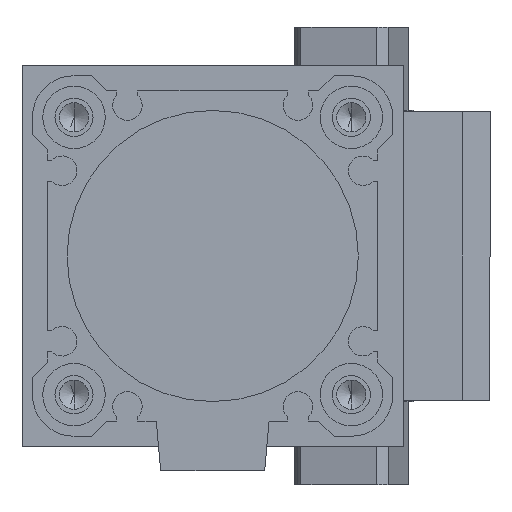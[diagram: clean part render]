
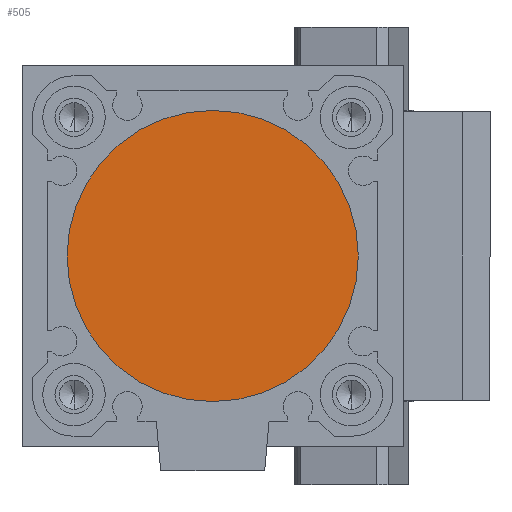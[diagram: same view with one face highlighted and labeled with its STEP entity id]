
A CAD part, front view. The second image highlights one B-rep face of the part: STEP entity #505.
In plain terms, the highlighted planar face has unit normal (0, -1, 0) as drawn and (1, 0, 0) by its records, which use the part's own axes.
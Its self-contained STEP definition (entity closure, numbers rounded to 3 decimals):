
#505 = ADVANCED_FACE ( 'NONE', ( #1811 ), #5530, .T. ) ;
#625 = AXIS2_PLACEMENT_3D ( 'NONE', #5523, #5531, #5532 ) ;
#686 = AXIS2_PLACEMENT_3D ( 'NONE', #1640, #1641, #1642 ) ;
#1009 = EDGE_CURVE ( 'NONE', #5265, #5264, #3982, .T. ) ;
#1640 = CARTESIAN_POINT ( 'NONE',  ( 57.5, 0., 0. ) ) ;
#1641 = DIRECTION ( 'NONE',  ( 1., 0., 0. ) ) ;
#1642 = DIRECTION ( 'NONE',  ( 0., 0., -1. ) ) ;
#1811 = FACE_OUTER_BOUND ( 'NONE', #4641, .T. ) ;
#2062 = CARTESIAN_POINT ( 'NONE',  ( 57.5, 0., 21. ) ) ;
#2063 = CARTESIAN_POINT ( 'NONE',  ( 57.5, 0., -21. ) ) ;
#2310 = AXIS2_PLACEMENT_3D ( 'NONE', #5149, #5150, #5151 ) ;
#2576 = CIRCLE ( 'NONE', #2310, 21. ) ;
#3982 = CIRCLE ( 'NONE', #686, 21. ) ;
#4341 = ORIENTED_EDGE ( 'NONE', *, *, #1009, .T. ) ;
#4342 = ORIENTED_EDGE ( 'NONE', *, *, #6448, .T. ) ;
#4641 = EDGE_LOOP ( 'NONE', ( #4341, #4342 ) ) ;
#5149 = CARTESIAN_POINT ( 'NONE',  ( 57.5, 0., 0. ) ) ;
#5150 = DIRECTION ( 'NONE',  ( 1., 0., 0. ) ) ;
#5151 = DIRECTION ( 'NONE',  ( 0., 0., -1. ) ) ;
#5264 = VERTEX_POINT ( 'NONE', #2062 ) ;
#5265 = VERTEX_POINT ( 'NONE', #2063 ) ;
#5523 = CARTESIAN_POINT ( 'NONE',  ( 57.5, 0., 0. ) ) ;
#5530 = PLANE ( 'NONE',  #625 ) ;
#5531 = DIRECTION ( 'NONE',  ( 1., 0., 0. ) ) ;
#5532 = DIRECTION ( 'NONE',  ( 0., 0., -1. ) ) ;
#6448 = EDGE_CURVE ( 'NONE', #5264, #5265, #2576, .T. ) ;
